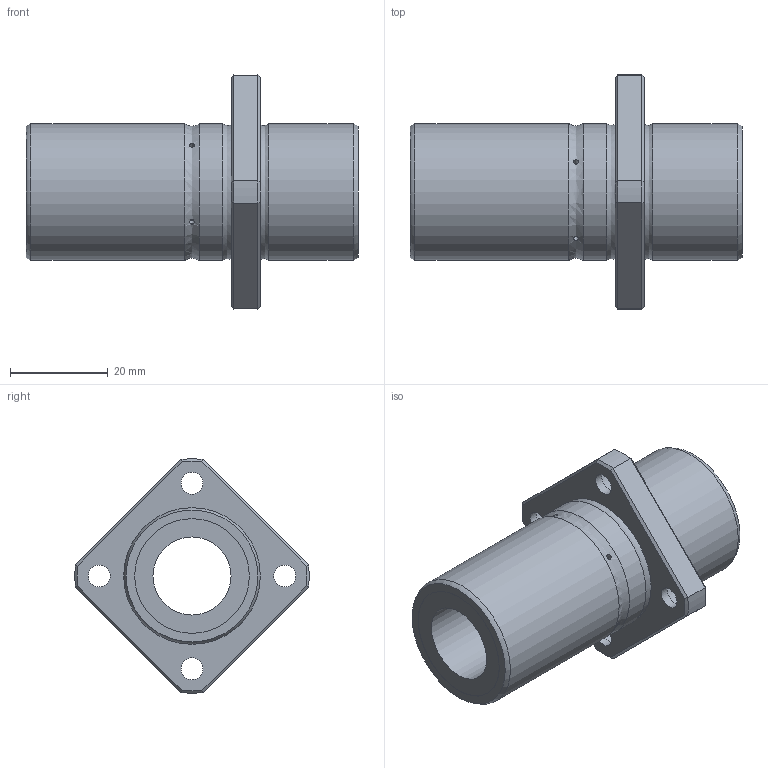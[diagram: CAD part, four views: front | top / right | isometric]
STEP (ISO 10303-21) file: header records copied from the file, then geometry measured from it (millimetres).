
FILE_DESCRIPTION((''),'2;1');
FILE_NAME('D:\製品 (図面)\カタログ用3D\リニアベアリング関連\STEP形式\LFDK-OH\LFDK16-OH.stp','2010-06-03T09:41:13',('Tsuchiya'),(''),'Autodesk Inventor 10','Autodesk Inventor 10','');
FILE_SCHEMA(('AUTOMOTIVE_DESIGN { 1 0 10303 214 1 1 1 1 }'));
Length unit declared in the file: millimetre
Products named in the file (1): LFDK16-OH
Bounding box: 68 x 47.98 x 47.98 mm (x, y, z)
Volume: 31324.2 mm3; surface area: 12362.7 mm2
Topology: 1 solids, 1 shells, 63 faces, 127 edges, 79 vertices
Faces by surface type: bspline 20, plane 18, cylinder 15, cone 8, torus 2
Full cylindrical faces by diameter (mm): 16 x1, 23.5 x2, 28 x3
Entity records: 2252 total; most frequent: CARTESIAN_POINT 1105, DIRECTION 208, ORIENTED_EDGE 196, EDGE_LOOP 110, EDGE_CURVE 98, AXIS2_PLACEMENT_3D 92, VERTEX_POINT 74, FACE_OUTER_BOUND 63
